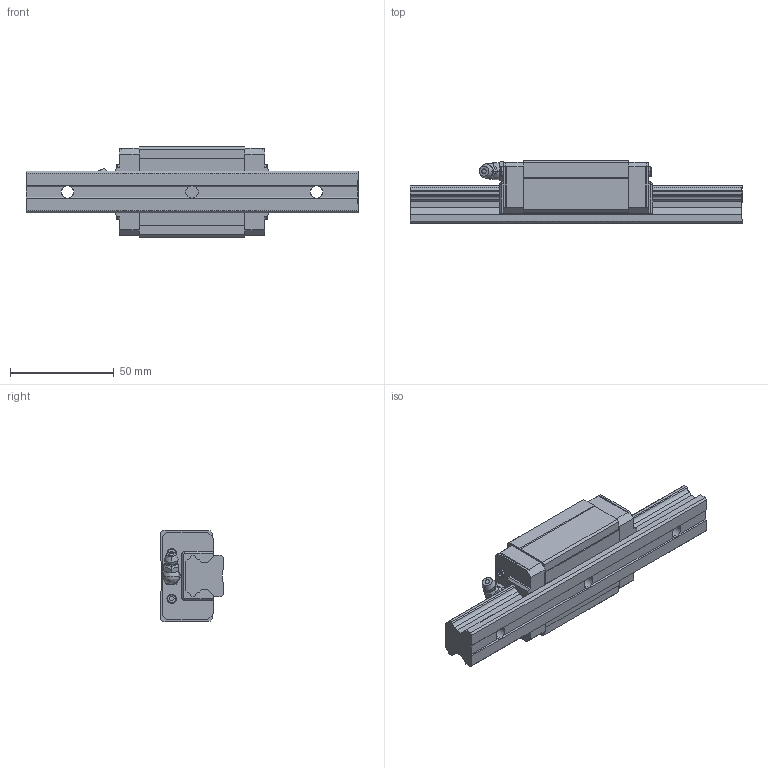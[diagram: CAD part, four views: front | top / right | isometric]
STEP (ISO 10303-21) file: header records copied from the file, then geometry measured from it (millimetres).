
FILE_DESCRIPTION (( 'STEP AP203' ), '1' );
FILE_NAME ('HSV20RSS.STEP', '2016-03-14T13:43:39', ( 'EOS' ), ( '' ), 'SwSTEP 2.0', 'SolidWorks 2016', '' );
FILE_SCHEMA (( 'CONFIG_CONTROL_DESIGN' ));
Length unit declared in the file: millimetre
Products named in the file (4): 1; 3; HSV20R; HSV20RSS
Assembly tree (3 placements, depth 2):
  HSV20RSS
    1
    HSV20R
    3
Bounding box: 160 x 30 x 44 mm (x, y, z)
Volume: 106287.3 mm3; surface area: 29169.1 mm2
Topology: 3 solids, 3 shells, 291 faces, 759 edges, 476 vertices
Faces by surface type: plane 194, cylinder 44, cone 36, bspline 17
Entity records: 9481 total; most frequent: CARTESIAN_POINT 2096, ORIENTED_EDGE 1486, DIRECTION 1392, EDGE_CURVE 743, LINE 548, VECTOR 548, VERTEX_POINT 476, AXIS2_PLACEMENT_3D 422
